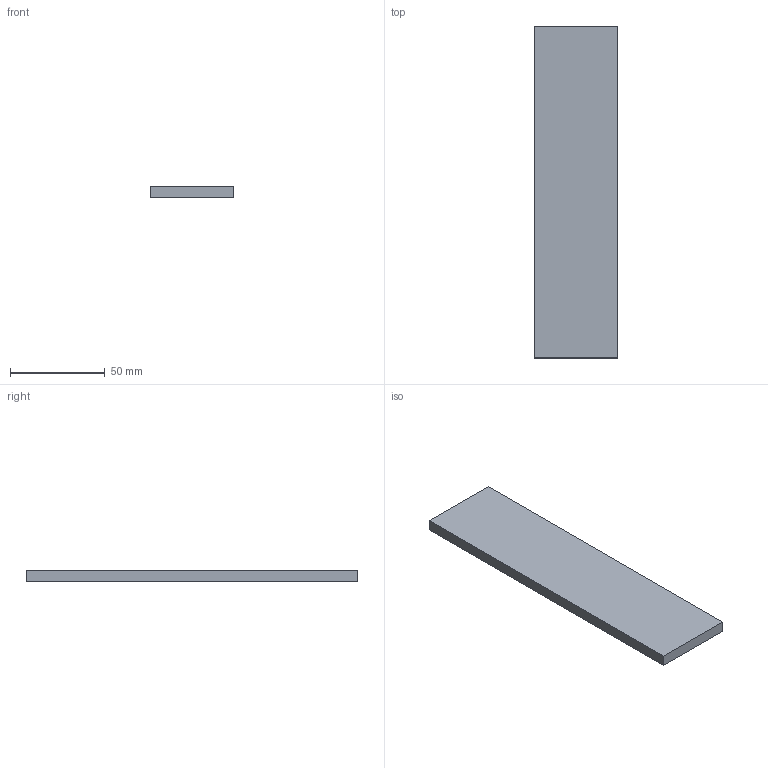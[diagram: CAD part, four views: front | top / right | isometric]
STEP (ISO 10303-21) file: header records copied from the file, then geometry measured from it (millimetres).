
FILE_DESCRIPTION(('Open CASCADE Model'),'2;1');
FILE_NAME('Open CASCADE Shape Model','2026-10-19T10:09:19',('Author'),( 'Open CASCADE'),'Open CASCADE STEP processor 8.0','Open CASCADE 8.0' ,'Unknown');
FILE_SCHEMA(('AUTOMOTIVE_DESIGN { 1 0 10303 214 1 1 1 1 }'));
Length unit declared in the file: millimetre
Products named in the file (1): U01_RIGIDIZADOR_44x175x6_P05 27
Bounding box: 44 x 175 x 6 mm (x, y, z)
Volume: 46200 mm3; surface area: 18028 mm2
Topology: 1 solids, 1 shells, 6 faces, 12 edges, 8 vertices
Faces by surface type: plane 6
Entity records: 322 total; most frequent: CARTESIAN_POINT 51, DIRECTION 50, LINE 36, VECTOR 36, ORIENTED_EDGE 24, PCURVE 24, DEFINITIONAL_REPRESENTATION 24, EDGE_CURVE 12
